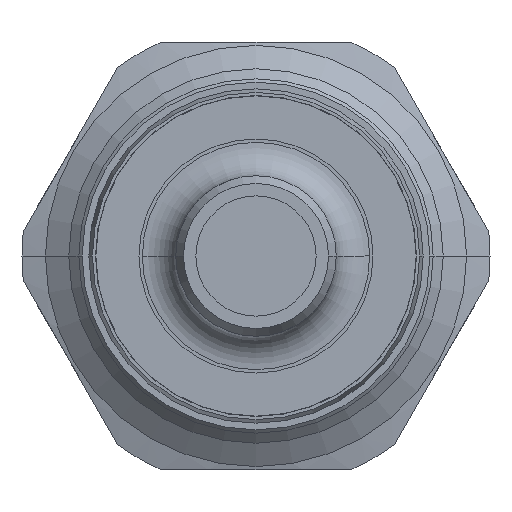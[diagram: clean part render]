
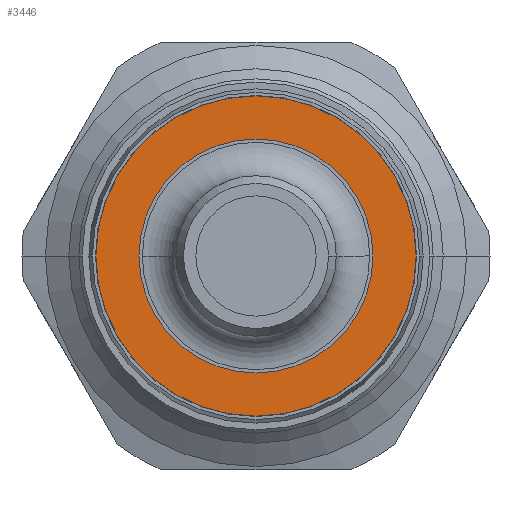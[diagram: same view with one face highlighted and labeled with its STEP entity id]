
A CAD part, front view. The second image highlights one B-rep face of the part: STEP entity #3446.
In plain terms, the highlighted planar face has unit normal (0, -1, 0).
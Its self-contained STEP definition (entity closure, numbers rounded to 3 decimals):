
#111=CARTESIAN_POINT('',(0.,-3.44,0.));
#112=DIRECTION('',(0.,1.,0.));
#113=DIRECTION('',(0.,0.,1.));
#114=AXIS2_PLACEMENT_3D('',#111,#112,#113);
#116=CARTESIAN_POINT('',(0.,-3.44,0.));
#117=DIRECTION('',(0.,1.,0.));
#118=DIRECTION('',(0.,0.,-1.));
#119=AXIS2_PLACEMENT_3D('',#116,#117,#118);
#121=CARTESIAN_POINT('',(0.,-3.44,0.));
#122=DIRECTION('',(0.,-1.,0.));
#123=DIRECTION('',(0.,0.,1.));
#124=AXIS2_PLACEMENT_3D('',#121,#122,#123);
#126=CARTESIAN_POINT('',(0.,-3.44,0.));
#127=DIRECTION('',(0.,-1.,0.));
#128=DIRECTION('',(0.,0.,-1.));
#129=AXIS2_PLACEMENT_3D('',#126,#127,#128);
#3256=CARTESIAN_POINT('',(0.,-3.44,-11.975));
#3257=VERTEX_POINT('',#3256);
#3258=CARTESIAN_POINT('',(0.,-3.44,11.975));
#3259=VERTEX_POINT('',#3258);
#3260=CARTESIAN_POINT('',(0.,-3.44,8.75));
#3261=CARTESIAN_POINT('',(0.,-3.44,-8.75));
#3262=VERTEX_POINT('',#3260);
#3263=VERTEX_POINT('',#3261);
#3431=CARTESIAN_POINT('',(0.,-3.44,0.));
#3432=DIRECTION('',(0.,-1.,0.));
#3433=DIRECTION('',(0.,0.,-1.));
#3434=AXIS2_PLACEMENT_3D('',#3431,#3432,#3433);
#3435=PLANE('',#3434);
#3437=ORIENTED_EDGE('',*,*,#3436,.T.);
#3439=ORIENTED_EDGE('',*,*,#3438,.T.);
#3440=EDGE_LOOP('',(#3437,#3439));
#3441=FACE_OUTER_BOUND('',#3440,.F.);
#3442=ORIENTED_EDGE('',*,*,#3411,.T.);
#3443=ORIENTED_EDGE('',*,*,#3425,.T.);
#3444=EDGE_LOOP('',(#3442,#3443));
#3445=FACE_BOUND('',#3444,.F.);
#115=CIRCLE('',#114,11.975);
#120=CIRCLE('',#119,11.975);
#125=CIRCLE('',#124,8.75);
#130=CIRCLE('',#129,8.75);
#3411=EDGE_CURVE('',#3262,#3263,#125,.T.);
#3425=EDGE_CURVE('',#3263,#3262,#130,.T.);
#3436=EDGE_CURVE('',#3259,#3257,#115,.T.);
#3438=EDGE_CURVE('',#3257,#3259,#120,.T.);
#3446=ADVANCED_FACE('',(#3441,#3445),#3435,.T.);
